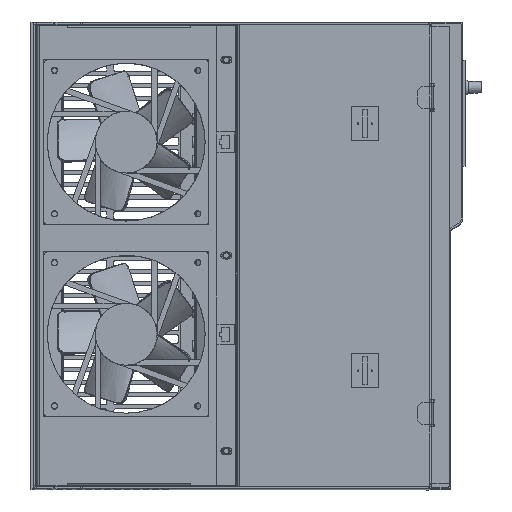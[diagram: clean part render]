
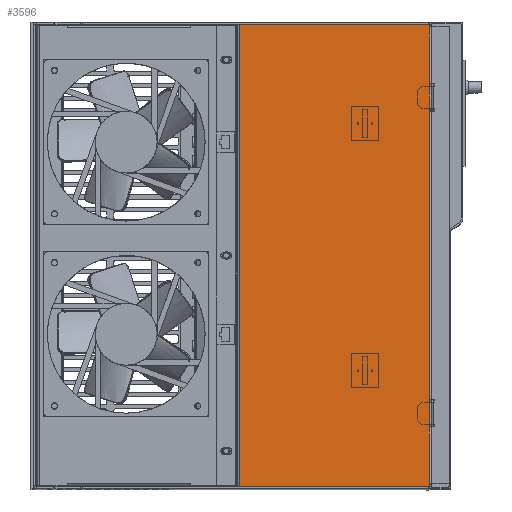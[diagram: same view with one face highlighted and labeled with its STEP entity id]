
A CAD part, top view. The second image highlights one B-rep face of the part: STEP entity #3596.
In plain terms, the highlighted planar face has unit normal (0, 0, 1) as drawn and (0, -1, 0) by its records, which use the part's own axes.
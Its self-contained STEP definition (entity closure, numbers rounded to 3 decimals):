
#3596=ADVANCED_FACE('',(#12489),#12491,.T.);
#12489=FACE_BOUND('',#12490,.T.);
#12490=EDGE_LOOP('',(#34288,#34289,#34290,#34291,#34292,#34293,#34294,#34295,#34296,
#34297));
#12491=PLANE('',#12492);
#12492=AXIS2_PLACEMENT_3D('',#12493,#12494,#12495);
#12493=CARTESIAN_POINT('',(0.,0.,0.));
#12494=DIRECTION('',(0.,-1.,0.));
#12495=DIRECTION('',(-1.,0.,0.));
#34288=ORIENTED_EDGE('',*,*,#46278,.T.);
#34289=ORIENTED_EDGE('',*,*,#46267,.T.);
#34290=ORIENTED_EDGE('',*,*,#46279,.T.);
#34291=ORIENTED_EDGE('',*,*,#46280,.T.);
#34292=ORIENTED_EDGE('',*,*,#46281,.T.);
#34293=ORIENTED_EDGE('',*,*,#46282,.T.);
#34294=ORIENTED_EDGE('',*,*,#46283,.T.);
#34295=ORIENTED_EDGE('',*,*,#46269,.T.);
#34296=ORIENTED_EDGE('',*,*,#46284,.T.);
#34297=ORIENTED_EDGE('',*,*,#46263,.T.);
#46263=EDGE_CURVE('',#54039,#54037,#54040,.T.);
#46267=EDGE_CURVE('',#54042,#54044,#54046,.T.);
#46269=EDGE_CURVE('',#54049,#54047,#54050,.T.);
#46278=EDGE_CURVE('',#54037,#54042,#54063,.F.);
#46279=EDGE_CURVE('',#54044,#54064,#54065,.T.);
#46280=EDGE_CURVE('',#54064,#54066,#54067,.T.);
#46281=EDGE_CURVE('',#54066,#54068,#54069,.T.);
#46282=EDGE_CURVE('',#54068,#54070,#54071,.T.);
#46283=EDGE_CURVE('',#54070,#54049,#54072,.T.);
#46284=EDGE_CURVE('',#54047,#54039,#54073,.F.);
#54037=VERTEX_POINT('',#68959);
#54039=VERTEX_POINT('',#68964);
#54040=LINE('',#68965,#68966);
#54042=VERTEX_POINT('',#68972);
#54044=VERTEX_POINT('',#68977);
#54046=LINE('',#68982,#68983);
#54047=VERTEX_POINT('',#68985);
#54049=VERTEX_POINT('',#68990);
#54050=LINE('',#68991,#68992);
#54063=LINE('',#69023,#69024);
#54064=VERTEX_POINT('',#69026);
#54065=LINE('',#69027,#69028);
#54066=VERTEX_POINT('',#69030);
#54067=LINE('',#69031,#69032);
#54068=VERTEX_POINT('',#69034);
#54069=LINE('',#69035,#69036);
#54070=VERTEX_POINT('',#69038);
#54071=LINE('',#69039,#69040);
#54072=LINE('',#69042,#69043);
#54073=LINE('',#69045,#69046);
#68959=CARTESIAN_POINT('',(-156.4,0.,-105.));
#68964=CARTESIAN_POINT('',(-156.4,0.,105.));
#68965=CARTESIAN_POINT('',(-156.4,0.,105.));
#68966=VECTOR('',#68967,1.);
#68967=DIRECTION('',(0.,0.,-1.));
#68972=CARTESIAN_POINT('',(-156.4,0.,-125.));
#68977=CARTESIAN_POINT('',(-156.4,0.,-166.5));
#68982=CARTESIAN_POINT('',(-156.4,0.,-125.));
#68983=VECTOR('',#68984,1.);
#68984=DIRECTION('',(0.,0.,-1.));
#68985=CARTESIAN_POINT('',(-156.4,0.,125.));
#68990=CARTESIAN_POINT('',(-156.4,0.,166.5));
#68991=CARTESIAN_POINT('',(-156.4,0.,166.5));
#68992=VECTOR('',#68993,1.);
#68993=DIRECTION('',(0.,0.,-1.));
#69023=CARTESIAN_POINT('',(-156.4,0.,-125.));
#69024=VECTOR('',#69025,1.);
#69025=DIRECTION('',(0.,0.,1.));
#69026=CARTESIAN_POINT('',(-156.4,0.,-168.5));
#69027=CARTESIAN_POINT('',(-156.4,0.,-166.5));
#69028=VECTOR('',#69029,1.);
#69029=DIRECTION('',(0.,0.,-1.));
#69030=CARTESIAN_POINT('',(-18.1,0.,-168.5));
#69031=CARTESIAN_POINT('',(-156.4,0.,-168.5));
#69032=VECTOR('',#69033,1.);
#69033=DIRECTION('',(1.,0.,0.));
#69034=CARTESIAN_POINT('',(-18.1,0.,168.5));
#69035=CARTESIAN_POINT('',(-18.1,0.,-168.5));
#69036=VECTOR('',#69037,1.);
#69037=DIRECTION('',(0.,0.,1.));
#69038=CARTESIAN_POINT('',(-156.4,0.,168.5));
#69039=CARTESIAN_POINT('',(-18.1,0.,168.5));
#69040=VECTOR('',#69041,1.);
#69041=DIRECTION('',(-1.,0.,0.));
#69042=CARTESIAN_POINT('',(-156.4,0.,168.5));
#69043=VECTOR('',#69044,1.);
#69044=DIRECTION('',(0.,0.,-1.));
#69045=CARTESIAN_POINT('',(-156.4,0.,105.));
#69046=VECTOR('',#69047,1.);
#69047=DIRECTION('',(0.,0.,1.));
